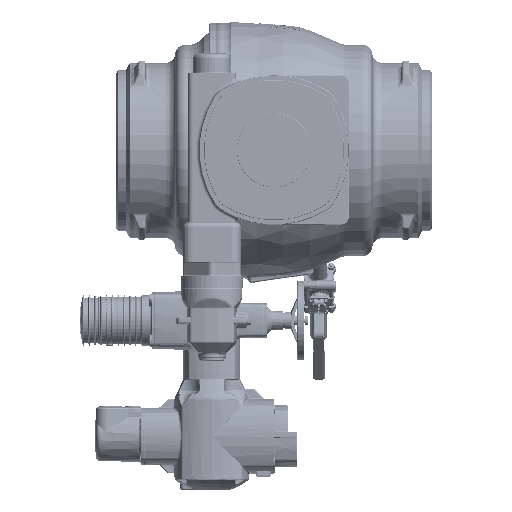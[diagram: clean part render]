
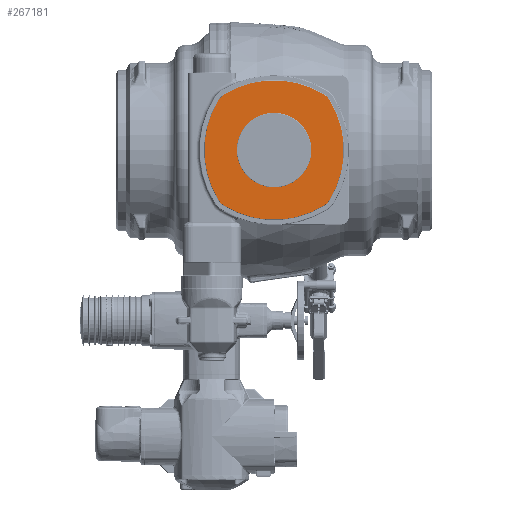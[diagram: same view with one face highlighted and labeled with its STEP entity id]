
A CAD part, top view. The second image highlights one B-rep face of the part: STEP entity #267181.
In plain terms, the highlighted planar face has unit normal (0, 0, 1).
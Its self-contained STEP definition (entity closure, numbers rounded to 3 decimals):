
#208946=CARTESIAN_POINT('',(0.,-50.,173.));
#208947=DIRECTION('',(0.,0.,-1.));
#208948=DIRECTION('',(-0.533,0.846,0.));
#208949=AXIS2_PLACEMENT_3D('',#208946,#208947,#208948);
#208960=CARTESIAN_POINT('',(85.34,85.34,173.));
#208961=DIRECTION('',(0.,0.,1.));
#208962=DIRECTION('',(0.846,0.533,0.));
#208963=AXIS2_PLACEMENT_3D('',#208960,#208961,#208962);
#208974=CARTESIAN_POINT('',(-50.,0.,173.));
#208975=DIRECTION('',(0.,0.,-1.));
#208976=DIRECTION('',(0.846,0.533,0.));
#208977=AXIS2_PLACEMENT_3D('',#208974,#208975,#208976);
#208988=CARTESIAN_POINT('',(85.34,-85.34,173.));
#208989=DIRECTION('',(0.,0.,1.));
#208990=DIRECTION('',(0.533,-0.846,0.));
#208991=AXIS2_PLACEMENT_3D('',#208988,#208989,#208990);
#209002=CARTESIAN_POINT('',(0.,50.,173.));
#209003=DIRECTION('',(0.,0.,-1.));
#209004=DIRECTION('',(0.533,-0.846,0.));
#209005=AXIS2_PLACEMENT_3D('',#209002,#209003,#209004);
#209016=CARTESIAN_POINT('',(-85.34,-85.34,173.));
#209017=DIRECTION('',(0.,0.,1.));
#209018=DIRECTION('',(-0.846,-0.533,0.));
#209019=AXIS2_PLACEMENT_3D('',#209016,#209017,#209018);
#209030=CARTESIAN_POINT('',(50.,0.,173.));
#209031=DIRECTION('',(0.,0.,-1.));
#209032=DIRECTION('',(-0.846,-0.533,0.));
#209033=AXIS2_PLACEMENT_3D('',#209030,#209031,#209032);
#209044=CARTESIAN_POINT('',(-85.34,85.34,173.));
#209045=DIRECTION('',(0.,0.,1.));
#209046=DIRECTION('',(-0.533,0.846,0.));
#209047=AXIS2_PLACEMENT_3D('',#209044,#209045,#209046);
#209049=CARTESIAN_POINT('',(0.,0.,173.));
#209050=DIRECTION('',(0.,0.,1.));
#209051=DIRECTION('',(-1.,0.,0.));
#209052=AXIS2_PLACEMENT_3D('',#209049,#209050,#209051);
#209054=CARTESIAN_POINT('',(0.,0.,173.));
#209055=DIRECTION('',(0.,0.,1.));
#209056=DIRECTION('',(1.,0.,0.));
#209057=AXIS2_PLACEMENT_3D('',#209054,#209055,#209056);
#256917=CARTESIAN_POINT('',(-75.,0.,173.));
#256918=CARTESIAN_POINT('',(75.,0.,173.));
#256919=VERTEX_POINT('',#256917);
#256920=VERTEX_POINT('',#256918);
#256921=CARTESIAN_POINT('',(101.342,-110.717,173.));
#256922=CARTESIAN_POINT('',(110.717,-101.342,173.));
#256923=VERTEX_POINT('',#256921);
#256924=VERTEX_POINT('',#256922);
#256925=CARTESIAN_POINT('',(110.717,101.342,173.));
#256926=VERTEX_POINT('',#256925);
#256927=CARTESIAN_POINT('',(101.342,110.717,173.));
#256928=VERTEX_POINT('',#256927);
#256929=CARTESIAN_POINT('',(-101.342,110.717,173.));
#256930=VERTEX_POINT('',#256929);
#256931=CARTESIAN_POINT('',(-110.717,101.342,173.));
#256932=VERTEX_POINT('',#256931);
#256933=CARTESIAN_POINT('',(-110.717,-101.342,173.));
#256934=VERTEX_POINT('',#256933);
#256935=CARTESIAN_POINT('',(-101.342,-110.717,173.));
#256936=VERTEX_POINT('',#256935);
#267160=CARTESIAN_POINT('',(0.,0.,173.));
#267161=DIRECTION('',(0.,0.,1.));
#267162=DIRECTION('',(1.,0.,0.));
#267163=AXIS2_PLACEMENT_3D('',#267160,#267161,#267162);
#267164=PLANE('',#267163);
#267165=ORIENTED_EDGE('',*,*,#267099,.F.);
#267166=ORIENTED_EDGE('',*,*,#267113,.T.);
#267167=ORIENTED_EDGE('',*,*,#267127,.F.);
#267168=ORIENTED_EDGE('',*,*,#267141,.T.);
#267169=ORIENTED_EDGE('',*,*,#267154,.F.);
#267170=ORIENTED_EDGE('',*,*,#267056,.T.);
#267171=ORIENTED_EDGE('',*,*,#267071,.F.);
#267172=ORIENTED_EDGE('',*,*,#267085,.T.);
#267173=EDGE_LOOP('',(#267165,#267166,#267167,#267168,#267169,#267170,#267171,
#267172));
#267174=FACE_OUTER_BOUND('',#267173,.F.);
#267176=ORIENTED_EDGE('',*,*,#267175,.T.);
#267178=ORIENTED_EDGE('',*,*,#267177,.T.);
#267179=EDGE_LOOP('',(#267176,#267178));
#267180=FACE_BOUND('',#267179,.F.);
#267181=ADVANCED_FACE('',(#267174,#267180),#267164,.T.);
#208950=CIRCLE('',#208949,190.);
#208964=CIRCLE('',#208963,30.);
#208978=CIRCLE('',#208977,190.);
#208992=CIRCLE('',#208991,30.);
#209006=CIRCLE('',#209005,190.);
#209020=CIRCLE('',#209019,30.);
#209034=CIRCLE('',#209033,190.);
#209048=CIRCLE('',#209047,30.);
#209053=CIRCLE('',#209052,75.);
#209058=CIRCLE('',#209057,75.);
#267056=EDGE_CURVE('',#256930,#256928,#208950,.T.);
#267071=EDGE_CURVE('',#256926,#256928,#208964,.T.);
#267085=EDGE_CURVE('',#256926,#256924,#208978,.T.);
#267099=EDGE_CURVE('',#256923,#256924,#208992,.T.);
#267113=EDGE_CURVE('',#256923,#256936,#209006,.T.);
#267127=EDGE_CURVE('',#256934,#256936,#209020,.T.);
#267141=EDGE_CURVE('',#256934,#256932,#209034,.T.);
#267154=EDGE_CURVE('',#256930,#256932,#209048,.T.);
#267175=EDGE_CURVE('',#256919,#256920,#209053,.T.);
#267177=EDGE_CURVE('',#256920,#256919,#209058,.T.);
